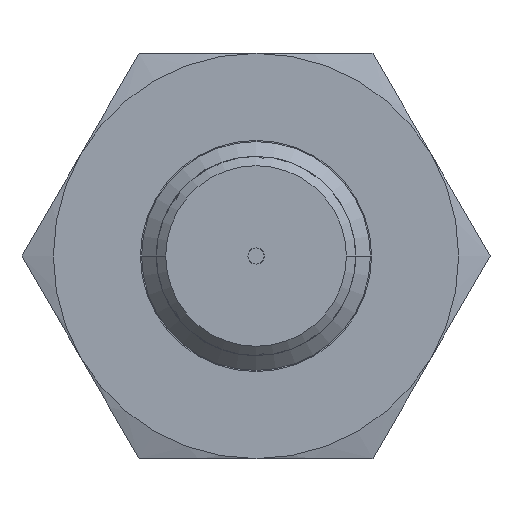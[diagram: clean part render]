
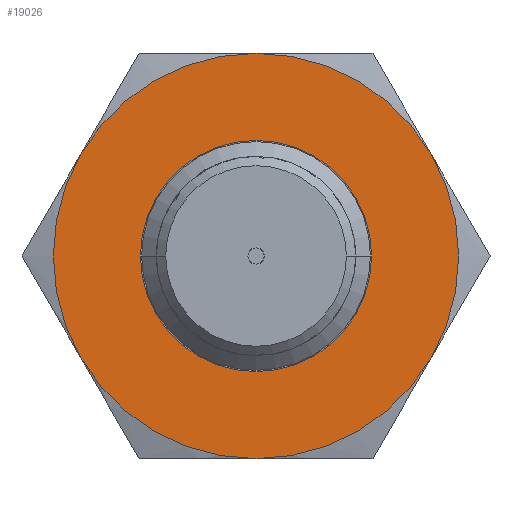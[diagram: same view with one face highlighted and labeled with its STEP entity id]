
A CAD part, left-side view. The second image highlights one B-rep face of the part: STEP entity #19026.
In plain terms, the highlighted free-form (B-spline) face has degree [1, 1] with [2, 2] control points.
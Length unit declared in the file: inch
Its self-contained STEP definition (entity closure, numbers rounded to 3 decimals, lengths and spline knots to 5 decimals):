
#4956=CARTESIAN_POINT('',(-0.2775,0.0,-0.4375));
#4957=VERTEX_POINT('',#4956);
#4991=CARTESIAN_POINT('',(-0.2775,0.,0.4375));
#4992=VERTEX_POINT('',#4991);
#4999=CARTESIAN_POINT('',(-0.2775,0.0,0.0));
#5000=DIRECTION('',(-1.0,0.0,0.0));
#5001=DIRECTION('',(0.0,0.0,-1.0));
#5002=AXIS2_PLACEMENT_3D('',#4999,#5000,#5001);
#5003=CIRCLE('',#5002,0.4375);
#5004=EDGE_CURVE('',#4957,#4992,#5003,.T.);
#5585=CARTESIAN_POINT('',(-0.2775,0.2495,0.0));
#5586=VERTEX_POINT('',#5585);
#5595=CARTESIAN_POINT('',(-0.2775,-0.2495,0.));
#5596=VERTEX_POINT('',#5595);
#5597=CARTESIAN_POINT('',(-0.2775,0.0,0.0));
#5598=DIRECTION('',(-1.0,0.0,0.0));
#5599=DIRECTION('',(0.0,1.0,0.0));
#5600=AXIS2_PLACEMENT_3D('',#5597,#5598,#5599);
#5601=CIRCLE('',#5600,0.2495);
#5602=EDGE_CURVE('',#5586,#5596,#5601,.T.);
#17657=CARTESIAN_POINT('',(-0.2775,0.0,0.0));
#17658=DIRECTION('',(-1.0,0.0,0.0));
#17659=DIRECTION('',(0.0,1.0,0.0));
#17660=AXIS2_PLACEMENT_3D('',#17657,#17658,#17659);
#17661=CIRCLE('',#17660,0.2495);
#17662=EDGE_CURVE('',#5596,#5586,#17661,.T.);
#18999=CARTESIAN_POINT('',(-0.2775,0.0,0.0));
#19000=DIRECTION('',(-1.0,0.0,0.0));
#19001=DIRECTION('',(0.0,0.0,-1.0));
#19002=AXIS2_PLACEMENT_3D('',#18999,#19000,#19001);
#19003=CIRCLE('',#19002,0.4375);
#19004=EDGE_CURVE('',#4992,#4957,#19003,.T.);
#19013=CARTESIAN_POINT('',(-0.2775,0.4375,0.4375));
#19014=CARTESIAN_POINT('',(-0.2775,0.4375,-0.4375));
#19015=CARTESIAN_POINT('',(-0.2775,-0.4375,0.4375));
#19016=CARTESIAN_POINT('',(-0.2775,-0.4375,-0.4375));
#19017=B_SPLINE_SURFACE_WITH_KNOTS('',1,1,((#19013,#19015),(#19014,#19016)),.UNSPECIFIED.,.F.,.F.,.U.,(2,2),(2,2),(0.0,0.875),(0.0,0.875),.UNSPECIFIED.);
#19018=ORIENTED_EDGE('',*,*,#5004,.T.);
#19019=ORIENTED_EDGE('',*,*,#19004,.T.);
#19020=EDGE_LOOP('',(#19018,#19019));
#19021=FACE_OUTER_BOUND('',#19020,.T.);
#19022=ORIENTED_EDGE('',*,*,#5602,.F.);
#19023=ORIENTED_EDGE('',*,*,#17662,.F.);
#19024=EDGE_LOOP('',(#19022,#19023));
#19025=FACE_BOUND('',#19024,.T.);
#19026=ADVANCED_FACE('',(#19021,#19025),#19017,.T.);
